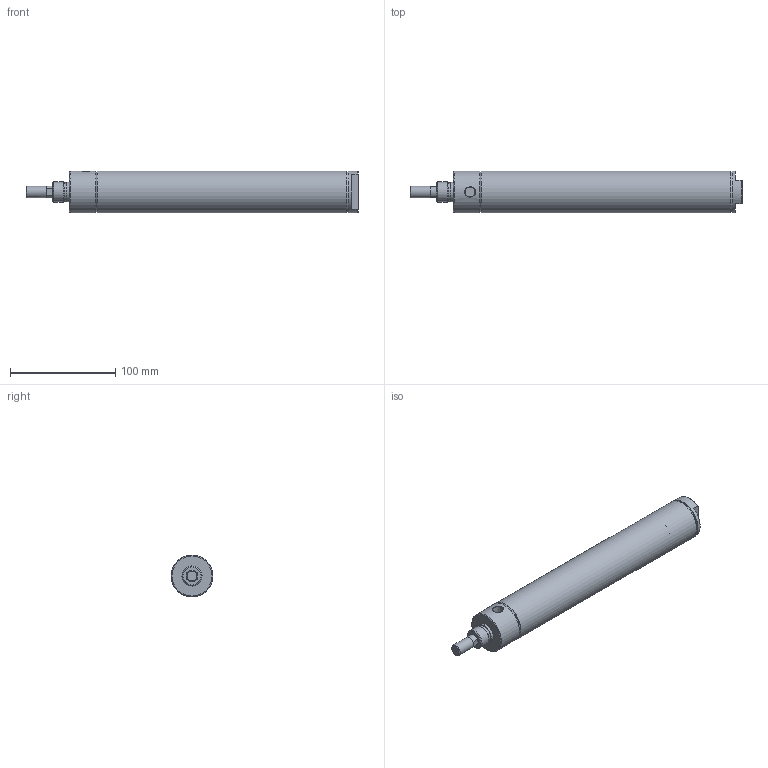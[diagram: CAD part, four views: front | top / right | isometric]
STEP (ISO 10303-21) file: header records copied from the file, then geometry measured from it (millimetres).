
FILE_DESCRIPTION( ( 'STEP AP214' ), '1' );
FILE_NAME( 'p:/temp/worker_523/temp/exporttempdir_5372_45_LcJva/format_0/1500D01-08A-03.stp', '2020-05-07T18:36:06', ( 'License CC BY-ND 4.0' ), ( 'CADENAS' ), ' ', 'PARTsolutions', ' ' );
FILE_SCHEMA( ( 'AUTOMOTIVE_DESIGN { 1 0 10303 214 1 1 1 1 }' ) );
Length unit declared in the file: inch
Products named in the file (3): 1500D01-08A-03; _1500D01-08A-0300A00A0b; _1500D01-08A-030r
Assembly tree (2 placements, depth 2):
  1500D01-08A-03
    _1500D01-08A-0300A00A0b
    _1500D01-08A-030r
Bounding box: 315.93 x 39.73 x 39.73 mm (x, y, z)
Volume: 130938.3 mm3; surface area: 86095.2 mm2
Topology: 2 solids, 2 shells, 50 faces, 96 edges, 60 vertices
Faces by surface type: plane 26, cone 12, cylinder 12
Full cylindrical faces by diameter (mm): 11.112 x1, 11.125 x3, 17.178 x1, 19.025 x1, 19.05 x1, 38.1 x2, 39.7 x2, 39.726 x1
Entity records: 1653 total; most frequent: CARTESIAN_POINT 265, DIRECTION 216, ORIENTED_EDGE 140, AXIS2_PLACEMENT_3D 98, EDGE_LOOP 82, EDGE_CURVE 70, FACE_OUTER_BOUND 62, VERTEX_POINT 56
